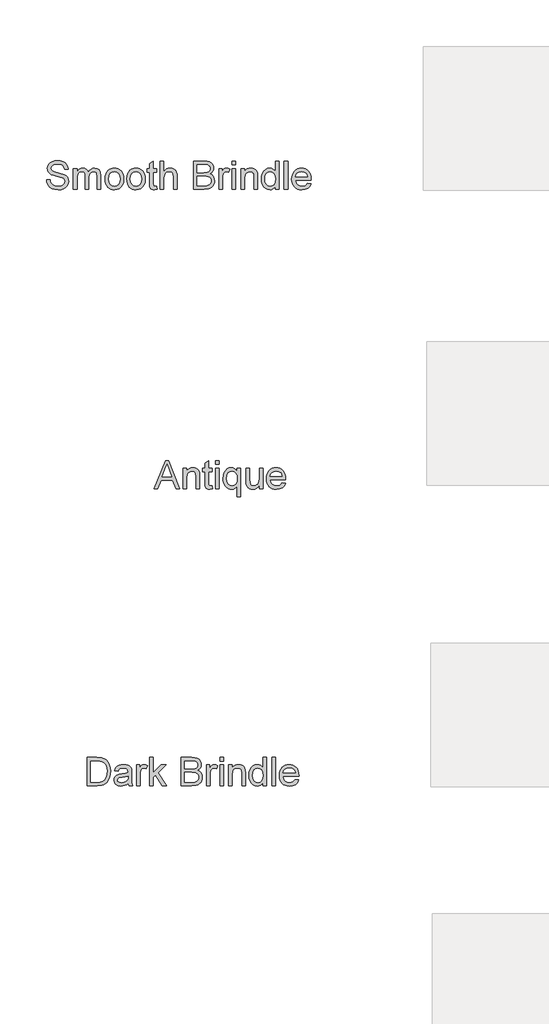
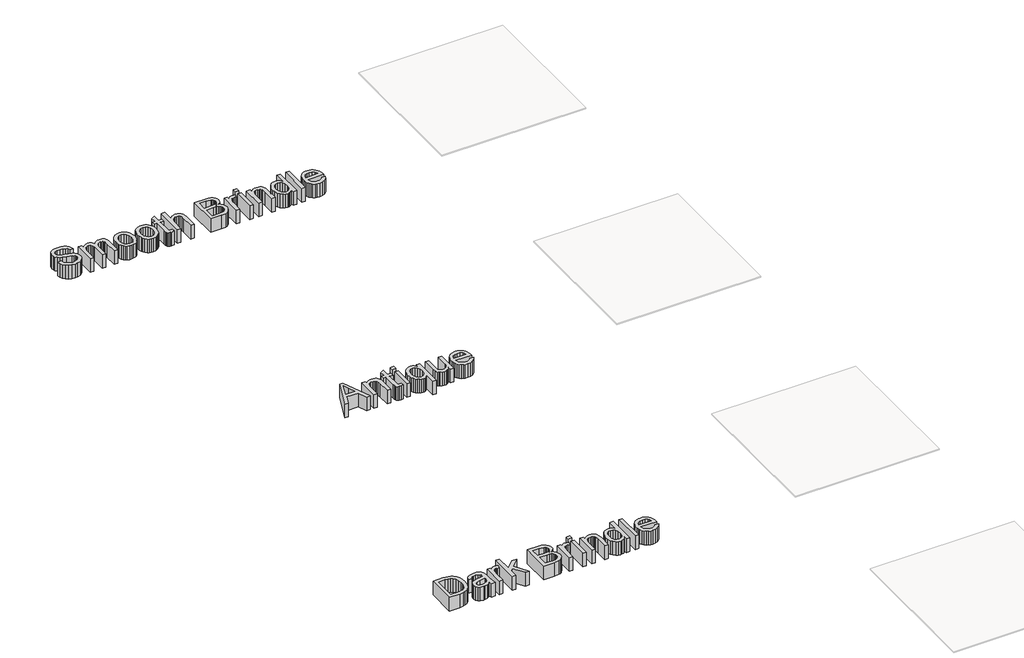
# One storey, part 2 of 4: 3 proxies.
"""IFC4 building model written with IfcOpenShell, lengths in millimetres."""

from ifc_helpers import new_model, si_unit, frame, origin, place, context, project, spatial, polyline, outline, extrude, element, save

model = new_model("IFC4")

# Units and contexts
model_context = context("Model", 3, world=origin())
ifc_project = project(units=[si_unit("LENGTHUNIT", "METRE", prefix="MILLI")], contexts=[model_context])

# Site, building, storey
site = spatial("IfcSite", under=ifc_project)
building = spatial("IfcBuilding", under=site)
storey = spatial("IfcBuildingStorey", under=building, Name="Marley Clay Plain Tile", Elevation=3000.0)

# Proxies
placement = place(None, origin())
element("IfcBuildingElementProxy", 1, Name="600mm Arial", ObjectType="600mm Arial", at=placement, inside=storey, context=model_context, shape_type="SweptSolid", body=[
    extrude(outline(polyline([(-13277.6509302, -8.2851026), (-13159.7422764, 287.0995128), (-13128.2999687, 287.0995128), (-13010.3913148, -8.2851026), (-13049.4057379, -8.2851026), (-13083.2278533, 84.0225897), (-13204.8865071, 84.0225897), (-13238.6365071, -8.2851026), (-13277.6509302, -8.2851026)]), holes=[polyline([(-13191.3288148, 120.9456666), (-13096.7134302, 120.9456666), (-13123.3240071, 193.5658589), (-13144.0211225, 250.1764358), (-13162.4105456, 199.9120128), (-13191.3288148, 120.9456666)])]), frame((0.0, 0.0, 3000.0), z_axis=(0.0, 0.0, 1.0), x_axis=(1.0, 0.0, 0.0)), (0.0, 0.0, 1.0), 150.0),
    extrude(outline(polyline([(-12975.5595841, -8.2851026), (-12975.5595841, 208.6379743), (-12938.6365071, 208.6379743), (-12938.6365071, 178.3495128), (-12925.8089831, 193.6199455), (-12910.4033341, 204.5273974), (-12892.41956, 211.0718685), (-12871.857661, 213.2533589), (-12853.6575408, 211.4955464), (-12836.9898725, 206.2221089), (-12823.0896321, 198.0910993), (-12813.1917956, 187.7605705), (-12802.1220841, 160.6091281), (-12800.1749687, 124.9120128), (-12800.1749687, -8.2851026), (-12837.0980456, -8.2851026), (-12837.0980456, 119.9360512), (-12841.3528533, 152.6043205), (-12847.2392716, 162.330883), (-12856.388911, 169.8759551), (-12868.1166754, 174.7167003), (-12881.7374687, 176.330282), (-12903.3630696, 172.7064839), (-12921.7975648, 161.8350897), (-12929.1646021, 152.9603902), (-12934.4267716, 140.8314839), (-12938.6365071, 106.8110512), (-12938.6365071, -8.2851026), (-12975.5595841, -8.2851026)])), frame((0.0, 0.0, 3000.0), z_axis=(0.0, 0.0, 1.0), x_axis=(1.0, 0.0, 0.0)), (0.0, 0.0, 1.0), 150.0),
    extrude(outline(polyline([(-12670.9441995, 22.5081666), (-12666.3288148, -9.3668334), (-12693.9490071, -12.9004872), (-12711.6713629, -11.3680353), (-12724.8865071, -6.7706795), (-12734.2254495, 0.314657), (-12740.3191995, 9.3110512), (-12743.6725648, 24.7617724), (-12744.7903533, 51.2100897), (-12744.7903533, 171.7148974), (-12772.482661, 171.7148974), (-12772.482661, 208.6379743), (-12744.7903533, 208.6379743), (-12744.7903533, 261.3543205), (-12707.8672764, 283.0610512), (-12707.8672764, 208.6379743), (-12670.9441995, 208.6379743), (-12670.9441995, 171.7148974), (-12707.8672764, 171.7148974), (-12707.8672764, 52.2918205), (-12705.920161, 33.2533589), (-12699.6100648, 26.5105705), (-12687.0259302, 24.0225897), (-12670.9441995, 22.5081666)])), frame((0.0, 0.0, 3000.0), z_axis=(0.0, 0.0, 1.0), x_axis=(1.0, 0.0, 0.0)), (0.0, 0.0, 1.0), 150.0),
    extrude(outline(polyline([(-12634.0211225, -8.2851026), (-12634.0211225, 208.6379743), (-12597.0980456, 208.6379743), (-12597.0980456, -8.2851026), (-12634.0211225, -8.2851026)])), frame((0.0, 0.0, 3000.0), z_axis=(0.0, 0.0, 1.0), x_axis=(1.0, 0.0, 0.0)), (0.0, 0.0, 1.0), 150.0),
    extrude(outline(polyline([(-12634.0211225, 250.1764358), (-12634.0211225, 287.0995128), (-12597.0980456, 287.0995128), (-12597.0980456, 250.1764358), (-12634.0211225, 250.1764358)])), frame((0.0, 0.0, 3000.0), z_axis=(0.0, 0.0, 1.0), x_axis=(1.0, 0.0, 0.0)), (0.0, 0.0, 1.0), 150.0),
    extrude(outline(polyline([(-12407.8672764, -91.3620257), (-12407.8672764, 21.2822051), (-12417.9093437, 7.814657), (-12431.3047764, -3.1649103), (-12446.8456418, -10.466593), (-12463.3240071, -12.9004872), (-12481.5286346, -10.9781615), (-12498.4261706, -5.2111844), (-12514.0166153, 4.4004443), (-12528.2999687, 17.8567243), (-12540.2260504, 34.6618625), (-12548.7446802, 54.3200656), (-12553.8558581, 76.8313337), (-12555.5595841, 102.1956666), (-12552.8552571, 133.1151378), (-12544.7422764, 160.6812435), (-12531.4910745, 183.4336474), (-12513.3720841, 199.9120128), (-12491.8276129, 209.9180224), (-12468.2999687, 213.2533589), (-12450.1088629, 210.6662195), (-12433.9730456, 202.9048012), (-12419.8925168, 189.9691041), (-12407.8672764, 171.8591281), (-12407.8672764, 208.6379743), (-12370.9441995, 208.6379743), (-12370.9441995, -91.3620257), (-12407.8672764, -91.3620257)]), holes=[polyline([(-12518.6365071, 100.1764358), (-12514.4808581, 66.8591281), (-12502.013911, 43.0610512), (-12483.7416754, 28.7822051), (-12462.170161, 24.0225897), (-12441.5000889, 28.5478301), (-12423.9129495, 42.1235512), (-12411.8786946, 64.9480705), (-12407.8672764, 97.2197051), (-12412.0950408, 131.7179022), (-12424.7783341, 156.4624935), (-12443.1587427, 171.3633349), (-12464.4778533, 176.330282), (-12485.4003293, 171.705883), (-12502.8792956, 157.8326858), (-12514.6972043, 134.1698253), (-12518.6365071, 100.1764358)])]), frame((0.0, 0.0, 3000.0), z_axis=(0.0, 0.0, 1.0), x_axis=(1.0, 0.0, 0.0)), (0.0, 0.0, 1.0), 150.0),
    extrude(outline(polyline([(-12177.0980456, -8.2851026), (-12177.0980456, 28.9985512), (-12190.4574206, 10.6677219), (-12206.0163148, -2.4257276), (-12223.7747283, -10.2817973), (-12243.732661, -12.9004872), (-12261.716435, -11.0615449), (-12278.4562187, -5.544718), (-12292.5006898, 2.7485512), (-12302.3985264, 12.9168205), (-12313.3961225, 40.1043205), (-12315.5595841, 74.4312435), (-12315.5595841, 208.6379743), (-12278.6365071, 208.6379743), (-12278.6365071, 91.8110512), (-12276.4009302, 54.1668205), (-12271.0193196, 41.6097291), (-12261.7975648, 32.0634551), (-12249.3486466, 26.032806), (-12234.2855456, 24.0225897), (-12218.35706, 26.0778781), (-12203.4562187, 32.2437435), (-12191.16956, 41.9522772), (-12183.0836225, 54.6355705), (-12178.5944398, 72.0063637), (-12177.0980456, 95.7773974), (-12177.0980456, 208.6379743), (-12140.1749687, 208.6379743), (-12140.1749687, -8.2851026), (-12177.0980456, -8.2851026)])), frame((0.0, 0.0, 3000.0), z_axis=(0.0, 0.0, 1.0), x_axis=(1.0, 0.0, 0.0)), (0.0, 0.0, 1.0), 150.0),
    extrude(outline(polyline([(-11937.5307379, 56.330282), (-11901.3288148, 51.7148974), (-11914.372685, 24.4372531), (-11935.1869879, 4.0466281), (-11963.3029735, -8.6637084), (-11998.2518918, -12.9004872), (-12021.162048, -11.072813), (-12041.5752091, -5.5897901), (-12059.4913749, 3.5485813), (-12074.9105456, 16.3423012), (-12087.3098846, 32.4353), (-12096.1665552, 51.471508), (-12101.4805576, 73.450925), (-12103.2518918, 98.3735512), (-12101.4625288, 124.1412796), (-12096.0944398, 146.8531185), (-12087.1476249, 166.5090681), (-12074.6220841, 183.1091281), (-12059.2434783, 196.2972291), (-12041.7374687, 205.7173012), (-12022.1040552, 211.3693445), (-12000.3432379, 213.2533589), (-11979.283292, 211.3738517), (-11960.2380696, 205.7353301), (-11943.2075709, 196.337794), (-11928.1917956, 183.1812435), (-11915.9344338, 166.6172411), (-11907.1791754, 146.9973493), (-11901.9260204, 124.3215681), (-11900.1749687, 98.5898974), (-11900.3913148, 88.6379743), (-12066.3288148, 88.6379743), (-12059.9375889, 60.9997531), (-12045.0908341, 40.6812435), (-12023.6635504, 28.1872531), (-11997.5307379, 24.0225897), (-11977.8792956, 25.9516762), (-11961.3288148, 31.7389358), (-11947.8792956, 41.7449455), (-11937.5307379, 56.330282)]), holes=[polyline([(-12066.3288148, 125.5610512), (-11937.0980456, 125.5610512), (-11942.092036, 145.0682628), (-11951.8816995, 159.0225897), (-11973.4081418, 172.0033589), (-12000.4874687, 176.330282), (-12025.3762908, 172.877758), (-12045.9562187, 162.5201858), (-12060.2621081, 146.3753541), (-12066.3288148, 125.5610512)])]), frame((0.0, 0.0, 3000.0), z_axis=(0.0, 0.0, 1.0), x_axis=(1.0, 0.0, 0.0)), (0.0, 0.0, 1.0), 150.0),
])
element("IfcBuildingElementProxy", 2, Name="600mm Arial", ObjectType="600mm Arial", at=placement, inside=storey, context=model_context, shape_type="SweptSolid", body=[
    extrude(outline(polyline([(-13979.151227, -3112.1837765), (-13979.151227, -2816.7991611), (-13877.2521885, -2816.7991611), (-13824.5358424, -2821.0539688), (-13800.9901693, -2829.2570938), (-13781.1223808, -2842.1837765), (-13760.6956981, -2864.6837765), (-13746.1464193, -2892.6645457), (-13737.4384866, -2925.5852188), (-13734.5358424, -2962.9049303), (-13736.5009866, -2994.6086563), (-13742.3964193, -3022.5082957), (-13751.3747847, -3046.2613005), (-13762.588727, -3065.5251226), (-13775.4973808, -3080.7324543), (-13789.5598808, -3092.315988), (-13805.7047126, -3100.9067332), (-13824.8603616, -3107.1356995), (-13872.3483424, -3112.1837765), (-13979.151227, -3112.1837765)]), holes=[polyline([(-13942.2281501, -3075.2606995), (-13876.8916116, -3075.2606995), (-13849.8663712, -3073.9265649), (-13829.3675731, -3069.9241611), (-13813.8988231, -3063.487863), (-13801.963727, -3054.8520457), (-13789.136203, -3038.8694736), (-13779.4997847, -3018.1813726), (-13773.4691356, -2992.6975986), (-13771.4589193, -2962.3280072), (-13775.3982222, -2922.0876226), (-13787.2161308, -2892.3760841), (-13804.6770683, -2871.9674303), (-13825.5454578, -2859.6356995), (-13846.7834385, -2855.2006034), (-13877.901227, -2853.722238), (-13942.2281501, -2853.722238), (-13942.2281501, -3075.2606995)])]), frame((0.0, 0.0, 3000.0), z_axis=(0.0, 0.0, 1.0), x_axis=(1.0, 0.0, 0.0)), (0.0, 0.0, 1.0), 150.0),
    extrude(outline(polyline([(-13549.9204578, -3084.4914688), (-13567.5616837, -3099.6176707), (-13585.7257462, -3109.5155072), (-13604.8273087, -3114.9782476), (-13625.2810347, -3116.7991611), (-13656.1374049, -3112.4181515), (-13678.8988231, -3099.2751226), (-13692.9342799, -3079.3171899), (-13697.6127655, -3054.4914688), (-13695.8459385, -3039.1849784), (-13690.5454578, -3025.284738), (-13682.369376, -3013.3856995), (-13671.9757462, -3004.0828149), (-13646.1223808, -2991.9674303), (-13614.1752655, -2986.4145457), (-13576.4228616, -2980.5731995), (-13550.1368039, -2973.722238), (-13549.9204578, -2965.5010841), (-13552.4625251, -2949.0227188), (-13560.088727, -2938.2414688), (-13577.1440155, -2930.2366611), (-13600.9060347, -2927.5683918), (-13622.901227, -2929.3442332), (-13638.2618039, -2934.6717572), (-13648.7365635, -2944.5245216), (-13656.0743039, -2959.8760841), (-13692.9973808, -2955.2606995), (-13686.588126, -2935.0683918), (-13677.0238231, -2919.2030072), (-13663.4120443, -2907.0695938), (-13644.8603616, -2898.0731995), (-13622.1710587, -2892.5022861), (-13596.1464193, -2890.6453149), (-13571.1854818, -2892.2859399), (-13551.3988231, -2897.2078149), (-13536.479953, -2904.6086563), (-13526.1223808, -2913.6861803), (-13519.2533905, -2924.909137), (-13514.8002655, -2938.7462765), (-13512.9973808, -2971.0539688), (-13512.9973808, -3016.9914688), (-13511.1223808, -3081.1381034), (-13503.7666116, -3112.1837765), (-13540.6896885, -3112.1837765), (-13549.9204578, -3084.4914688)]), holes=[polyline([(-13549.9204578, -3010.6453149), (-13609.4877655, -3021.9674303), (-13641.2545924, -3027.9530072), (-13655.6416116, -3037.6885841), (-13660.6896885, -3051.8953149), (-13657.9402895, -3062.8748822), (-13649.6920924, -3071.8712765), (-13636.1253856, -3077.8748822), (-13617.4204578, -3079.8760841), (-13597.588727, -3077.6675505), (-13580.0646885, -3071.0419495), (-13565.8579578, -3061.2793293), (-13555.9781501, -3049.659738), (-13551.5971405, -3037.6885841), (-13550.1368039, -3021.1020457), (-13549.9204578, -3010.6453149)])]), frame((0.0, 0.0, 3000.0), z_axis=(0.0, 0.0, 1.0), x_axis=(1.0, 0.0, 0.0)), (0.0, 0.0, 1.0), 150.0),
    extrude(outline(polyline([(-13462.2281501, -3112.1837765), (-13462.2281501, -2895.2606995), (-13429.9204578, -2895.2606995), (-13429.9204578, -2927.3520457), (-13417.9853616, -2908.7462765), (-13406.9877655, -2897.784738), (-13395.9541116, -2892.4301707), (-13383.9108424, -2890.6453149), (-13365.5214193, -2893.4938726), (-13346.8435347, -2902.0395457), (-13359.1752655, -2935.1405072), (-13372.1560347, -2929.4614207), (-13385.1368039, -2927.5683918), (-13396.1614433, -2929.3893053), (-13406.0142078, -2934.8520457), (-13413.9739433, -2943.5419495), (-13419.3194962, -2955.0443534), (-13423.8086789, -2975.6693534), (-13425.3050731, -2998.1693534), (-13425.3050731, -3112.1837765), (-13462.2281501, -3112.1837765)])), frame((0.0, 0.0, 3000.0), z_axis=(0.0, 0.0, 1.0), x_axis=(1.0, 0.0, 0.0)), (0.0, 0.0, 1.0), 150.0),
    extrude(outline(polyline([(-13323.7666116, -3112.1837765), (-13323.7666116, -2816.7991611), (-13286.8435347, -2816.7991611), (-13286.8435347, -2975.5251226), (-13204.0550731, -2895.2606995), (-13152.9973808, -2895.2606995), (-13236.7954578, -2976.534738), (-13148.3819962, -3112.1837765), (-13191.5069962, -3112.1837765), (-13263.2618039, -3002.2078149), (-13286.8435347, -3025.0683918), (-13286.8435347, -3112.1837765), (-13323.7666116, -3112.1837765)])), frame((0.0, 0.0, 3000.0), z_axis=(0.0, 0.0, 1.0), x_axis=(1.0, 0.0, 0.0)), (0.0, 0.0, 1.0), 150.0),
    extrude(outline(polyline([(-12996.0743039, -3112.1837765), (-12996.0743039, -2816.7991611), (-12883.3579578, -2816.7991611), (-12852.3573568, -2818.971637), (-12828.1536308, -2825.4890649), (-12809.6019481, -2836.5137043), (-12795.557477, -2852.2078149), (-12786.714328, -2870.6693534), (-12783.7666116, -2889.9962765), (-12786.245578, -2907.7817332), (-12793.682477, -2924.503488), (-12806.1313953, -2939.1338966), (-12823.6464193, -2950.6453149), (-12802.7239433, -2961.5707957), (-12787.2642078, -2978.1933918), (-12777.7179337, -2999.4133438), (-12774.5358424, -3024.1308918), (-12776.7083183, -3044.7288486), (-12783.2257462, -3063.8304111), (-12792.9523087, -3080.0744015), (-12804.7521885, -3092.0996418), (-12819.2023087, -3100.8075745), (-12836.8795924, -3107.0996418), (-12884.2233424, -3112.1837765), (-12996.0743039, -3112.1837765)]), holes=[polyline([(-12959.151227, -3075.2606995), (-12883.4300731, -3075.2606995), (-12856.026227, -3073.8183918), (-12832.8411308, -3065.7775265), (-12817.4805539, -3049.3712765), (-12812.964328, -3037.7787284), (-12811.4589193, -3024.4914688), (-12813.2257462, -3009.0587765), (-12818.526227, -2995.7895457), (-12827.7840395, -2985.4139447), (-12841.4228616, -2978.6621418), (-12860.7407703, -2974.957214), (-12887.0358424, -2973.722238), (-12959.151227, -2973.722238), (-12959.151227, -3075.2606995)]), polyline([(-12959.151227, -2936.7991611), (-12891.7233424, -2936.7991611), (-12852.3483424, -2933.6260841), (-12838.5652895, -2928.1543293), (-12828.6584385, -2919.9602188), (-12822.681876, -2909.1699543), (-12820.6896885, -2895.909738), (-12822.5466597, -2883.0371418), (-12828.1175731, -2871.8231995), (-12837.1500251, -2863.0701947), (-12849.3916116, -2857.5804111), (-12896.8435347, -2853.722238), (-12959.151227, -2853.722238), (-12959.151227, -2936.7991611)])]), frame((0.0, 0.0, 3000.0), z_axis=(0.0, 0.0, 1.0), x_axis=(1.0, 0.0, 0.0)), (0.0, 0.0, 1.0), 150.0),
    extrude(outline(polyline([(-12728.3819962, -3112.1837765), (-12728.3819962, -2895.2606995), (-12696.0743039, -2895.2606995), (-12696.0743039, -2927.3520457), (-12684.1392078, -2908.7462765), (-12673.1416116, -2897.784738), (-12662.1079578, -2892.4301707), (-12650.0646885, -2890.6453149), (-12631.6752655, -2893.4938726), (-12612.9973808, -2902.0395457), (-12625.3291116, -2935.1405072), (-12638.3098808, -2929.4614207), (-12651.2906501, -2927.5683918), (-12662.3152895, -2929.3893053), (-12672.1680539, -2934.8520457), (-12680.1277895, -2943.5419495), (-12685.4733424, -2955.0443534), (-12689.9625251, -2975.6693534), (-12691.4589193, -2998.1693534), (-12691.4589193, -3112.1837765), (-12728.3819962, -3112.1837765)])), frame((0.0, 0.0, 3000.0), z_axis=(0.0, 0.0, 1.0), x_axis=(1.0, 0.0, 0.0)), (0.0, 0.0, 1.0), 150.0),
    extrude(outline(polyline([(-12589.9204578, -3112.1837765), (-12589.9204578, -2895.2606995), (-12552.9973808, -2895.2606995), (-12552.9973808, -3112.1837765), (-12589.9204578, -3112.1837765)])), frame((0.0, 0.0, 3000.0), z_axis=(0.0, 0.0, 1.0), x_axis=(1.0, 0.0, 0.0)), (0.0, 0.0, 1.0), 150.0),
    extrude(outline(polyline([(-12589.9204578, -2853.722238), (-12589.9204578, -2816.7991611), (-12552.9973808, -2816.7991611), (-12552.9973808, -2853.722238), (-12589.9204578, -2853.722238)])), frame((0.0, 0.0, 3000.0), z_axis=(0.0, 0.0, 1.0), x_axis=(1.0, 0.0, 0.0)), (0.0, 0.0, 1.0), 150.0),
    extrude(outline(polyline([(-12497.6127655, -3112.1837765), (-12497.6127655, -2895.2606995), (-12460.6896885, -2895.2606995), (-12460.6896885, -2925.5491611), (-12447.8621645, -2910.2787284), (-12432.4565155, -2899.3712765), (-12414.4727414, -2892.8268053), (-12393.9108424, -2890.6453149), (-12375.7107222, -2892.4031274), (-12359.0430539, -2897.6765649), (-12345.1428135, -2905.8075745), (-12335.244977, -2916.1381034), (-12324.1752655, -2943.2895457), (-12322.2281501, -2978.9866611), (-12322.2281501, -3112.1837765), (-12359.151227, -3112.1837765), (-12359.151227, -2983.9626226), (-12363.4060347, -2951.2943534), (-12369.292453, -2941.5677909), (-12378.4420924, -2934.0227188), (-12390.1698568, -2929.1819736), (-12403.7906501, -2927.5683918), (-12425.416251, -2931.1921899), (-12443.8507462, -2942.0635841), (-12451.2177835, -2950.9382837), (-12456.479953, -2963.0671899), (-12460.6896885, -2997.0876226), (-12460.6896885, -3112.1837765), (-12497.6127655, -3112.1837765)])), frame((0.0, 0.0, 3000.0), z_axis=(0.0, 0.0, 1.0), x_axis=(1.0, 0.0, 0.0)), (0.0, 0.0, 1.0), 150.0),
    extrude(outline(polyline([(-12137.6127655, -3112.1837765), (-12137.6127655, -3077.3520457), (-12148.6599409, -3094.6101587), (-12162.041852, -3106.9373822), (-12177.7584986, -3114.3337164), (-12195.8098808, -3116.7991611), (-12219.6800731, -3113.2294495), (-12241.5310347, -3102.5203149), (-12260.0286308, -3085.4199543), (-12273.838727, -3062.6765649), (-12282.4384866, -3035.2096178), (-12285.3050731, -3003.9385841), (-12282.6638472, -2973.0551707), (-12274.7401693, -2945.1645457), (-12261.5430539, -2921.8532476), (-12243.0815155, -2904.7078149), (-12220.7527895, -2894.1609399), (-12195.9541116, -2890.6453149), (-12177.8892078, -2893.160339), (-12161.9156501, -2900.7054111), (-12148.3759866, -2912.2709159), (-12137.6127655, -2926.847238), (-12137.6127655, -2816.7991611), (-12100.6896885, -2816.7991611), (-12100.6896885, -3112.1837765), (-12137.6127655, -3112.1837765)]), holes=[polyline([(-12248.3819962, -3003.7943534), (-12244.2173328, -3037.1927909), (-12231.7233424, -3060.9457957), (-12213.5682943, -3075.143512), (-12192.4204578, -3079.8760841), (-12171.2816356, -3075.3598582), (-12153.5863231, -3061.8111803), (-12141.6061549, -3038.9776466), (-12137.6127655, -3006.6068534), (-12141.6782703, -2971.2162284), (-12153.8747847, -2946.6789688), (-12172.0208183, -2932.3460361), (-12193.9348808, -2927.5683918), (-12215.2990635, -2932.1567332), (-12232.8050731, -2945.9217572), (-12244.4877655, -2969.566589), (-12248.3819962, -3003.7943534)])]), frame((0.0, 0.0, 3000.0), z_axis=(0.0, 0.0, 1.0), x_axis=(1.0, 0.0, 0.0)), (0.0, 0.0, 1.0), 150.0),
    extrude(outline(polyline([(-12045.3050731, -3112.1837765), (-12045.3050731, -2816.7991611), (-12008.3819962, -2816.7991611), (-12008.3819962, -3112.1837765), (-12045.3050731, -3112.1837765)])), frame((0.0, 0.0, 3000.0), z_axis=(0.0, 0.0, 1.0), x_axis=(1.0, 0.0, 0.0)), (0.0, 0.0, 1.0), 150.0),
    extrude(outline(polyline([(-11801.1223808, -3047.5683918), (-11764.9204578, -3052.1837765), (-11777.964328, -3079.4614207), (-11798.7786308, -3099.8520457), (-11826.8946164, -3112.5623822), (-11861.8435347, -3116.7991611), (-11884.7536909, -3114.9714868), (-11905.166852, -3109.488464), (-11923.0830179, -3100.3500926), (-11938.5021885, -3087.5563726), (-11950.9015275, -3071.4633738), (-11959.7581981, -3052.4271659), (-11965.0722005, -3030.4477488), (-11966.8435347, -3005.5251226), (-11965.0541717, -2979.7573942), (-11959.6860828, -2957.0455553), (-11950.7392679, -2937.3896058), (-11938.213727, -2920.7895457), (-11922.8351212, -2907.6014447), (-11905.3291116, -2898.1813726), (-11885.6956981, -2892.5293293), (-11863.9348808, -2890.6453149), (-11842.8749349, -2892.5248221), (-11823.8297126, -2898.1633438), (-11806.7992138, -2907.5608798), (-11791.7834385, -2920.7174303), (-11779.5260768, -2937.2814327), (-11770.7708183, -2956.9013245), (-11765.5176633, -2979.5771058), (-11763.7666116, -3005.3087765), (-11763.9829578, -3015.2606995), (-11929.9204578, -3015.2606995), (-11923.5292318, -3042.8989207), (-11908.682477, -3063.2174303), (-11887.2551933, -3075.7114207), (-11861.1223808, -3079.8760841), (-11841.4709385, -3077.9469976), (-11824.9204578, -3072.159738), (-11811.4709385, -3062.1537284), (-11801.1223808, -3047.5683918)]), holes=[polyline([(-11929.9204578, -2978.3376226), (-11800.6896885, -2978.3376226), (-11805.6836789, -2958.8304111), (-11815.4733424, -2944.8760841), (-11836.9997847, -2931.8953149), (-11864.0791116, -2927.5683918), (-11888.9679337, -2931.0209159), (-11909.5478616, -2941.378488), (-11923.853751, -2957.5233197), (-11929.9204578, -2978.3376226)])]), frame((0.0, 0.0, 3000.0), z_axis=(0.0, 0.0, 1.0), x_axis=(1.0, 0.0, 0.0)), (0.0, 0.0, 1.0), 150.0),
])
element("IfcBuildingElementProxy", 3, Name="600mm Arial", ObjectType="600mm Arial", at=placement, inside=storey, context=model_context, shape_type="SweptSolid", body=[
    extrude(outline(polyline([(-14403.6803433, 3224.8764189), (-14366.7572664, 3224.8764189), (-14362.5204875, 3204.3866352), (-14354.8582279, 3187.9172843), (-14342.9051029, 3174.8463708), (-14325.7957279, 3164.5518997), (-14304.8822664, 3157.8722122), (-14281.5168817, 3155.6456497), (-14260.9459683, 3157.3313468), (-14242.935151, 3162.3884381), (-14228.3408, 3170.3932458), (-14218.0192856, 3180.922092), (-14211.8804635, 3193.0104333), (-14209.8341894, 3205.6937266), (-14211.3666414, 3218.0525006), (-14215.9639971, 3228.734592), (-14225.3029394, 3237.8481737), (-14241.060151, 3245.5014189), (-14294.8221702, 3259.5999766), (-14330.1136366, 3268.9299045), (-14352.6947664, 3277.8091112), (-14371.075175, 3290.2309862), (-14384.1010164, 3305.2850727), (-14391.8624346, 3322.6468516), (-14394.4495741, 3341.9918035), (-14391.2494539, 3363.6174045), (-14381.6490933, 3383.7826689), (-14365.9008962, 3400.8740151), (-14344.2572664, 3413.2778612), (-14318.2776991, 3420.8229333), (-14289.5216894, 3423.3379574), (-14258.3678433, 3420.7057458), (-14231.1082279, 3412.8091112), (-14208.716401, 3399.8103131), (-14192.1659202, 3381.8716112), (-14181.6911606, 3360.1107939), (-14177.5264971, 3335.6456497), (-14214.4495741, 3335.6456497), (-14221.2284202, 3357.6768997), (-14235.3630356, 3373.578342), (-14257.4483721, 3383.2057458), (-14288.0793817, 3386.4148804), (-14319.4315452, 3383.2418035), (-14340.9399587, 3373.7225727), (-14353.3798625, 3359.7141593), (-14357.5264971, 3343.0735343), (-14354.5877952, 3328.8848324), (-14345.7716894, 3317.4725727), (-14324.9303433, 3307.2682458), (-14285.4832279, 3296.8475727), (-14220.1466894, 3278.3139189), (-14199.0980116, 3264.9184862), (-14184.4135164, 3248.3860343), (-14175.7867135, 3228.8968516), (-14172.9111125, 3206.6312266), (-14176.2194058, 3183.8698083), (-14186.1442856, 3162.4605535), (-14202.2801029, 3144.0350727), (-14224.2212087, 3130.2249766), (-14250.606425, 3121.5981737), (-14280.0745741, 3118.7225727), (-14316.2494539, 3121.8235343), (-14346.0240933, 3131.1264189), (-14369.7410404, 3146.6672843), (-14387.7428433, 3168.4821881), (-14399.2993337, 3195.0567074), (-14403.6803433, 3224.8764189)])), frame((0.0, 0.0, 3000.0), z_axis=(0.0, 0.0, 1.0), x_axis=(1.0, 0.0, 0.0)), (0.0, 0.0, 1.0), 150.0),
    extrude(outline(polyline([(-14122.1418817, 3123.3379574), (-14122.1418817, 3340.2610343), (-14085.2188048, 3340.2610343), (-14085.2188048, 3304.5639189), (-14074.1130356, 3320.9611545), (-14059.8341894, 3333.8067074), (-14042.8690452, 3342.108991), (-14023.7043817, 3344.8764189), (-14003.169526, 3342.0549045), (-13986.7091894, 3333.5903612), (-13974.4135164, 3320.0416833), (-13966.372651, 3301.9677651), (-13952.9141173, 3320.7403011), (-13937.5625548, 3334.1492554), (-13920.3179635, 3342.194628), (-13901.1803433, 3344.8764189), (-13873.4249346, 3340.4142795), (-13852.8990933, 3327.0278612), (-13840.2158, 3304.3565872), (-13835.9880356, 3272.0398804), (-13835.9880356, 3123.3379574), (-13872.9111125, 3123.3379574), (-13872.9111125, 3256.1744958), (-13876.3365933, 3287.0038227), (-13881.1502952, 3295.5044237), (-13888.7404394, 3302.1841112), (-13898.5030596, 3306.5110343), (-13909.8341894, 3307.953342), (-13929.8371942, 3304.2574285), (-13946.1442856, 3293.1696881), (-13956.9886366, 3273.9329093), (-13960.6034202, 3245.7898804), (-13960.6034202, 3123.3379574), (-13997.5264971, 3123.3379574), (-13997.5264971, 3260.2850727), (-13999.6629154, 3281.1624766), (-14006.0721702, 3296.0543035), (-14017.3492135, 3304.9785824), (-14034.0889971, 3307.953342), (-14048.3137567, 3305.9701689), (-14061.4207279, 3300.0206497), (-14072.2380356, 3290.2490151), (-14079.5938048, 3276.7994958), (-14083.8125548, 3258.1396401), (-14085.2188048, 3232.7369958), (-14085.2188048, 3123.3379574), (-14122.1418817, 3123.3379574)])), frame((0.0, 0.0, 3000.0), z_axis=(0.0, 0.0, 1.0), x_axis=(1.0, 0.0, 0.0)), (0.0, 0.0, 1.0), 150.0),
    extrude(outline(polyline([(-13789.8341894, 3231.7994958), (-13787.8374947, 3259.8929453), (-13781.8474106, 3284.1011785), (-13771.863937, 3304.4241953), (-13757.8870741, 3320.8619958), (-13743.8155596, 3331.3683059), (-13728.2837087, 3338.8728131), (-13711.2915212, 3343.3755175), (-13692.8389971, 3344.8764189), (-13672.4686546, 3343.0487446), (-13654.0499346, 3337.5657218), (-13637.5828373, 3328.4273504), (-13623.0673625, 3315.6336304), (-13611.220157, 3299.6172542), (-13602.7578673, 3280.8109141), (-13597.6804935, 3259.21461), (-13595.9880356, 3234.828342), (-13598.9808241, 3197.5266593), (-13607.9591894, 3169.1312266), (-13622.6617135, 3147.8662026), (-13642.8269779, 3131.9557458), (-13666.7783, 3122.030866), (-13692.8389971, 3118.7225727), (-13713.5068156, 3120.5434862), (-13732.0968096, 3126.0062266), (-13748.6089791, 3135.1107939), (-13763.0433241, 3147.8571881), (-13774.7643277, 3164.0290631), (-13783.1364731, 3183.4100727), (-13788.1597603, 3206.000217), (-13789.8341894, 3231.7994958)]), holes=[polyline([(-13752.9111125, 3231.8716112), (-13748.638276, 3198.4551449), (-13735.8197664, 3174.6480535), (-13716.528901, 3160.3962506), (-13692.8389971, 3155.6456497), (-13669.2572664, 3160.4232939), (-13650.0024587, 3174.7562266), (-13637.1839491, 3198.8788227), (-13632.9111125, 3233.0254574), (-13637.2109923, 3265.468366), (-13650.1106317, 3288.9509381), (-13669.3924827, 3303.202741), (-13692.8389971, 3307.953342), (-13716.528901, 3303.2207699), (-13735.8197664, 3289.0230535), (-13748.638276, 3265.2700487), (-13752.9111125, 3231.8716112)])]), frame((0.0, 0.0, 3000.0), z_axis=(0.0, 0.0, 1.0), x_axis=(1.0, 0.0, 0.0)), (0.0, 0.0, 1.0), 150.0),
    extrude(outline(polyline([(-13563.6803433, 3231.7994958), (-13561.6836486, 3259.8929453), (-13555.6935644, 3284.1011785), (-13545.7100909, 3304.4241953), (-13531.7332279, 3320.8619958), (-13517.6617135, 3331.3683059), (-13502.1298625, 3338.8728131), (-13485.137675, 3343.3755175), (-13466.685151, 3344.8764189), (-13446.3148084, 3343.0487446), (-13427.8960885, 3337.5657218), (-13411.4289911, 3328.4273504), (-13396.9135164, 3315.6336304), (-13385.0663108, 3299.6172542), (-13376.6040212, 3280.8109141), (-13371.5266474, 3259.21461), (-13369.8341894, 3234.828342), (-13372.8269779, 3197.5266593), (-13381.8053433, 3169.1312266), (-13396.5078673, 3147.8662026), (-13416.6731317, 3131.9557458), (-13440.6244539, 3122.030866), (-13466.685151, 3118.7225727), (-13487.3529695, 3120.5434862), (-13505.9429635, 3126.0062266), (-13522.4551329, 3135.1107939), (-13536.8894779, 3147.8571881), (-13548.6104815, 3164.0290631), (-13556.9826269, 3183.4100727), (-13562.0059142, 3206.000217), (-13563.6803433, 3231.7994958)]), holes=[polyline([(-13526.7572664, 3231.8716112), (-13522.4844298, 3198.4551449), (-13509.6659202, 3174.6480535), (-13490.3750548, 3160.3962506), (-13466.685151, 3155.6456497), (-13443.1034202, 3160.4232939), (-13423.8486125, 3174.7562266), (-13411.0301029, 3198.8788227), (-13406.7572664, 3233.0254574), (-13411.0571462, 3265.468366), (-13423.9567856, 3288.9509381), (-13443.2386366, 3303.202741), (-13466.685151, 3307.953342), (-13490.3750548, 3303.2207699), (-13509.6659202, 3289.0230535), (-13522.4844298, 3265.2700487), (-13526.7572664, 3231.8716112)])]), frame((0.0, 0.0, 3000.0), z_axis=(0.0, 0.0, 1.0), x_axis=(1.0, 0.0, 0.0)), (0.0, 0.0, 1.0), 150.0),
    extrude(outline(polyline([(-13249.8341894, 3154.1312266), (-13245.2188048, 3122.2562266), (-13272.8389971, 3118.7225727), (-13290.5613529, 3120.2550247), (-13303.7764971, 3124.8523804), (-13313.1154394, 3131.937717), (-13319.2091894, 3140.9341112), (-13322.5625548, 3156.3848324), (-13323.6803433, 3182.8331497), (-13323.6803433, 3303.3379574), (-13351.372651, 3303.3379574), (-13351.372651, 3340.2610343), (-13323.6803433, 3340.2610343), (-13323.6803433, 3392.9773804), (-13286.7572664, 3414.6841112), (-13286.7572664, 3340.2610343), (-13249.8341894, 3340.2610343), (-13249.8341894, 3303.3379574), (-13286.7572664, 3303.3379574), (-13286.7572664, 3183.9148804), (-13284.810151, 3164.8764189), (-13278.5000548, 3158.1336304), (-13265.9159202, 3155.6456497), (-13249.8341894, 3154.1312266)])), frame((0.0, 0.0, 3000.0), z_axis=(0.0, 0.0, 1.0), x_axis=(1.0, 0.0, 0.0)), (0.0, 0.0, 1.0), 150.0),
    extrude(outline(polyline([(-13212.9111125, 3123.3379574), (-13212.9111125, 3418.7225727), (-13175.9880356, 3418.7225727), (-13175.9880356, 3310.1168035), (-13162.4258361, 3325.3241352), (-13147.1959683, 3336.1865151), (-13130.2984322, 3342.7039429), (-13111.7332279, 3344.8764189), (-13089.4315452, 3342.5056256), (-13070.2668817, 3335.3932458), (-13055.1767375, 3324.0981737), (-13045.0986125, 3309.1793035), (-13039.419526, 3288.6805054), (-13037.5264971, 3260.6456497), (-13037.5264971, 3123.3379574), (-13074.4495741, 3123.3379574), (-13074.4495741, 3256.8235343), (-13077.388276, 3279.9365151), (-13086.2043817, 3295.765842), (-13100.4111125, 3304.906467), (-13119.5216894, 3307.953342), (-13135.1256558, 3305.8980535), (-13149.7740933, 3299.7321881), (-13161.9075067, 3290.0506977), (-13169.966401, 3277.4485343), (-13174.4826269, 3260.6997362), (-13175.9880356, 3238.578342), (-13175.9880356, 3123.3379574), (-13212.9111125, 3123.3379574)])), frame((0.0, 0.0, 3000.0), z_axis=(0.0, 0.0, 1.0), x_axis=(1.0, 0.0, 0.0)), (0.0, 0.0, 1.0), 150.0),
    extrude(outline(polyline([(-12866.7572664, 3123.3379574), (-12866.7572664, 3418.7225727), (-12754.0409202, 3418.7225727), (-12723.0403192, 3416.5500968), (-12698.8365933, 3410.0326689), (-12680.2849106, 3399.0080295), (-12666.2404394, 3383.3139189), (-12657.3972904, 3364.8523804), (-12654.4495741, 3345.5254574), (-12656.9285404, 3327.7400006), (-12664.3654394, 3311.0182458), (-12676.8143577, 3296.3878372), (-12694.3293817, 3284.8764189), (-12673.4069058, 3273.9509381), (-12657.9471702, 3257.328342), (-12648.4008962, 3236.1083901), (-12645.2188048, 3211.390842), (-12647.3912808, 3190.7928852), (-12653.9087087, 3171.6913227), (-12663.6352712, 3155.4473324), (-12675.435151, 3143.422092), (-12689.8852712, 3134.7141593), (-12707.5625548, 3128.422092), (-12754.9063048, 3123.3379574), (-12866.7572664, 3123.3379574)]), holes=[polyline([(-12829.8341894, 3298.7225727), (-12762.4063048, 3298.7225727), (-12723.0313048, 3301.8956497), (-12709.2482519, 3307.3674045), (-12699.341401, 3315.5615151), (-12693.3648385, 3326.3517795), (-12691.372651, 3339.6119958), (-12693.2296221, 3352.484592), (-12698.8005356, 3363.6985343), (-12707.8329875, 3372.4515391), (-12720.0745741, 3377.9413227), (-12767.5264971, 3381.7994958), (-12829.8341894, 3381.7994958), (-12829.8341894, 3298.7225727)]), polyline([(-12829.8341894, 3160.2610343), (-12754.1130356, 3160.2610343), (-12726.7091894, 3161.703342), (-12703.5240933, 3169.7442074), (-12688.1635164, 3186.1504574), (-12683.6472904, 3197.7430054), (-12682.1418817, 3211.0302651), (-12683.9087087, 3226.4629574), (-12689.2091894, 3239.7321881), (-12698.4670019, 3250.1077891), (-12712.1058241, 3256.859592), (-12731.4237327, 3260.5645199), (-12757.7188048, 3261.7994958), (-12829.8341894, 3261.7994958), (-12829.8341894, 3160.2610343)])]), frame((0.0, 0.0, 3000.0), z_axis=(0.0, 0.0, 1.0), x_axis=(1.0, 0.0, 0.0)), (0.0, 0.0, 1.0), 150.0),
    extrude(outline(polyline([(-12599.0649587, 3123.3379574), (-12599.0649587, 3340.2610343), (-12566.7572664, 3340.2610343), (-12566.7572664, 3308.1696881), (-12554.8221702, 3326.7754574), (-12543.8245741, 3337.7369958), (-12532.7909202, 3343.0915631), (-12520.747651, 3344.8764189), (-12502.3582279, 3342.0278612), (-12483.6803433, 3333.4821881), (-12496.0120741, 3300.3812266), (-12508.9928433, 3306.0603131), (-12521.9736125, 3307.953342), (-12532.9982519, 3306.1324285), (-12542.8510164, 3300.6696881), (-12550.8107519, 3291.9797843), (-12556.1563048, 3280.4773804), (-12560.6454875, 3259.8523804), (-12562.1418817, 3237.3523804), (-12562.1418817, 3123.3379574), (-12599.0649587, 3123.3379574)])), frame((0.0, 0.0, 3000.0), z_axis=(0.0, 0.0, 1.0), x_axis=(1.0, 0.0, 0.0)), (0.0, 0.0, 1.0), 150.0),
    extrude(outline(polyline([(-12460.6034202, 3123.3379574), (-12460.6034202, 3340.2610343), (-12423.6803433, 3340.2610343), (-12423.6803433, 3123.3379574), (-12460.6034202, 3123.3379574)])), frame((0.0, 0.0, 3000.0), z_axis=(0.0, 0.0, 1.0), x_axis=(1.0, 0.0, 0.0)), (0.0, 0.0, 1.0), 150.0),
    extrude(outline(polyline([(-12460.6034202, 3381.7994958), (-12460.6034202, 3418.7225727), (-12423.6803433, 3418.7225727), (-12423.6803433, 3381.7994958), (-12460.6034202, 3381.7994958)])), frame((0.0, 0.0, 3000.0), z_axis=(0.0, 0.0, 1.0), x_axis=(1.0, 0.0, 0.0)), (0.0, 0.0, 1.0), 150.0),
    extrude(outline(polyline([(-12368.2957279, 3123.3379574), (-12368.2957279, 3340.2610343), (-12331.372651, 3340.2610343), (-12331.372651, 3309.9725727), (-12318.5451269, 3325.2430054), (-12303.1394779, 3336.1504574), (-12285.1557039, 3342.6949285), (-12264.5938048, 3344.8764189), (-12246.3936846, 3343.1186064), (-12229.7260164, 3337.8451689), (-12215.825776, 3329.7141593), (-12205.9279394, 3319.3836304), (-12194.8582279, 3292.2321881), (-12192.9111125, 3256.5350727), (-12192.9111125, 3123.3379574), (-12229.8341894, 3123.3379574), (-12229.8341894, 3251.5591112), (-12234.0889971, 3284.2273804), (-12239.9754154, 3293.9539429), (-12249.1250548, 3301.4990151), (-12260.8528192, 3306.3397602), (-12274.4736125, 3307.953342), (-12296.0992135, 3304.3295439), (-12314.5337087, 3293.4581497), (-12321.9007459, 3284.5834502), (-12327.1629154, 3272.4545439), (-12331.372651, 3238.4341112), (-12331.372651, 3123.3379574), (-12368.2957279, 3123.3379574)])), frame((0.0, 0.0, 3000.0), z_axis=(0.0, 0.0, 1.0), x_axis=(1.0, 0.0, 0.0)), (0.0, 0.0, 1.0), 150.0),
    extrude(outline(polyline([(-12008.2957279, 3123.3379574), (-12008.2957279, 3158.1696881), (-12019.3429034, 3140.9115752), (-12032.7248144, 3128.5843516), (-12048.4414611, 3121.1880175), (-12066.4928433, 3118.7225727), (-12090.3630356, 3122.2922843), (-12112.2139971, 3133.0014189), (-12130.7115933, 3150.1017795), (-12144.5216894, 3172.8451689), (-12153.1214491, 3200.312116), (-12155.9880356, 3231.5831497), (-12153.3468096, 3262.4665631), (-12145.4231317, 3290.3571881), (-12132.2260164, 3313.6684862), (-12113.7644779, 3330.8139189), (-12091.4357519, 3341.3607939), (-12066.6370741, 3344.8764189), (-12048.5721702, 3342.3613949), (-12032.5986125, 3334.8163227), (-12019.0589491, 3323.2508179), (-12008.2957279, 3308.6744958), (-12008.2957279, 3418.7225727), (-11971.372651, 3418.7225727), (-11971.372651, 3123.3379574), (-12008.2957279, 3123.3379574)]), holes=[polyline([(-12119.0649587, 3231.7273804), (-12114.9002952, 3198.3289429), (-12102.4063048, 3174.5759381), (-12084.2512567, 3160.3782218), (-12063.1034202, 3155.6456497), (-12041.9645981, 3160.1618756), (-12024.2692856, 3173.7105535), (-12012.2891173, 3196.5440872), (-12008.2957279, 3228.9148804), (-12012.3612327, 3264.3055054), (-12024.5577471, 3288.8427651), (-12042.7037808, 3303.1756977), (-12064.6178433, 3307.953342), (-12085.982026, 3303.3650006), (-12103.4880356, 3289.5999766), (-12115.1707279, 3265.9551449), (-12119.0649587, 3231.7273804)])]), frame((0.0, 0.0, 3000.0), z_axis=(0.0, 0.0, 1.0), x_axis=(1.0, 0.0, 0.0)), (0.0, 0.0, 1.0), 150.0),
    extrude(outline(polyline([(-11915.9880356, 3123.3379574), (-11915.9880356, 3418.7225727), (-11879.0649587, 3418.7225727), (-11879.0649587, 3123.3379574), (-11915.9880356, 3123.3379574)])), frame((0.0, 0.0, 3000.0), z_axis=(0.0, 0.0, 1.0), x_axis=(1.0, 0.0, 0.0)), (0.0, 0.0, 1.0), 150.0),
    extrude(outline(polyline([(-11671.8053433, 3187.953342), (-11635.6034202, 3183.3379574), (-11648.6472904, 3156.0603131), (-11669.4615933, 3135.6696881), (-11697.5775789, 3122.9593516), (-11732.5264971, 3118.7225727), (-11755.4366534, 3120.550247), (-11775.8498144, 3126.0332699), (-11793.7659803, 3135.1716413), (-11809.185151, 3147.9653612), (-11821.5844899, 3164.05836), (-11830.4411606, 3183.0945679), (-11835.755163, 3205.073985), (-11837.5264971, 3229.9966112), (-11835.7371341, 3255.7643396), (-11830.3690452, 3278.4761785), (-11821.4222303, 3298.132128), (-11808.8966894, 3314.7321881), (-11793.5180837, 3327.9202891), (-11776.0120741, 3337.3403612), (-11756.3786606, 3342.9924045), (-11734.6178433, 3344.8764189), (-11713.5578974, 3342.9969117), (-11694.512675, 3337.3583901), (-11677.4821762, 3327.960854), (-11662.466401, 3314.8043035), (-11650.2090392, 3298.2403011), (-11641.4537808, 3278.6204093), (-11636.2006257, 3255.944628), (-11634.4495741, 3230.2129574), (-11634.6659202, 3220.2610343), (-11800.6034202, 3220.2610343), (-11794.2121942, 3192.6228131), (-11779.3654394, 3172.3043035), (-11757.9381558, 3159.8103131), (-11731.8053433, 3155.6456497), (-11712.153901, 3157.5747362), (-11695.6034202, 3163.3619958), (-11682.153901, 3173.3680054), (-11671.8053433, 3187.953342)]), holes=[polyline([(-11800.6034202, 3257.1841112), (-11671.372651, 3257.1841112), (-11676.3666414, 3276.6913227), (-11686.1563048, 3290.6456497), (-11707.6827471, 3303.6264189), (-11734.7620741, 3307.953342), (-11759.6508962, 3304.5008179), (-11780.2308241, 3294.1432458), (-11794.5367135, 3277.9984141), (-11800.6034202, 3257.1841112)])]), frame((0.0, 0.0, 3000.0), z_axis=(0.0, 0.0, 1.0), x_axis=(1.0, 0.0, 0.0)), (0.0, 0.0, 1.0), 150.0),
])

save(model, "model.ifc")
